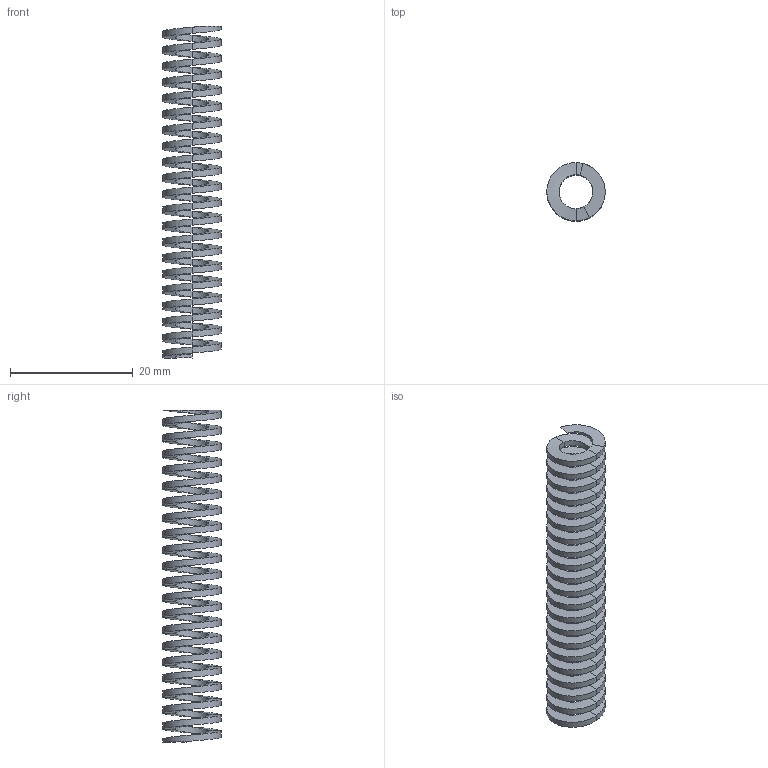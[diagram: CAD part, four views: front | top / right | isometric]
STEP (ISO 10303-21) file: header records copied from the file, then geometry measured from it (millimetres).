
FILE_DESCRIPTION(('CATIA V5 STEP Exchange','CAx-IF Rec.Pracs.--- Model Styling and Organization---1.5--- 2016-08-15','CAx-IF Rec.Pracs.---Supplemental Geometry---1.0---2011-11-01','CAx-IF Rec.Pracs.--- Composite Materials ---1.1---2010-07-15','CAx-IF Rec.Pracs.---External References---2.1---2005-01-19'),'2;1');
FILE_NAME('E:\WAT\Sprezarka\122_00_00_Tlocznik2\Tlocznik2_KPL\Tlocznik2_stp\241.14.10.076_skok22.stp','2023-08-01T08:40:10+00:00',('none'),('none'),'CATIA Version 5-6 Release 2022 SP3','CATIA V5 STEP AP214 v2','none');
FILE_SCHEMA(('AUTOMOTIVE_DESIGN { 1 0 10303 214 1 1 1 1 }'));
Length unit declared in the file: millimetre
Products named in the file (1): 241.14.10.076_skok22
Bounding box: 9.5 x 9.5 x 54 mm (x, y, z)
Volume: 976.4 mm3; surface area: 2965.2 mm2
Topology: 1 solids, 1 shells, 171 faces, 343 edges, 174 vertices
Faces by surface type: bspline 168, plane 3
Entity records: 7349 total; most frequent: CARTESIAN_POINT 5075, ORIENTED_EDGE 686, EDGE_CURVE 343, B_SPLINE_CURVE_WITH_KNOTS 340, VERTEX_POINT 174, ADVANCED_FACE 171, EDGE_LOOP 171, FACE_OUTER_BOUND 171
